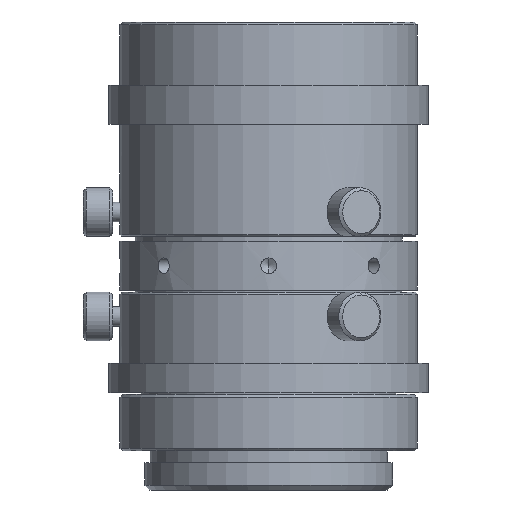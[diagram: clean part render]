
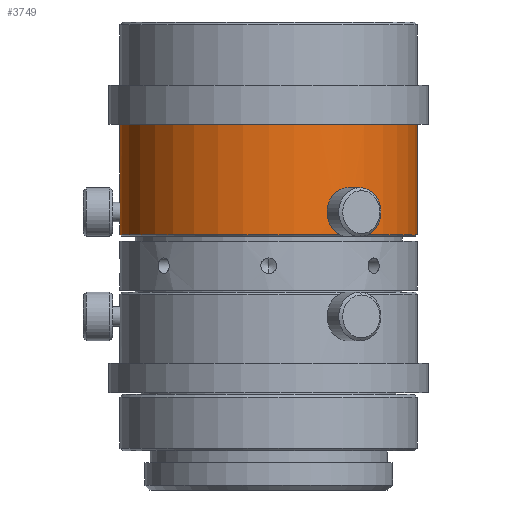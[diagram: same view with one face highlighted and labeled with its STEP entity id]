
A CAD part, left-side view. The second image highlights one B-rep face of the part: STEP entity #3749.
In plain terms, the highlighted cylindrical face has radius 15.25 mm (diameter 30.5 mm), a partial arc.
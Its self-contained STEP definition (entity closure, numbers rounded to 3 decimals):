
#30 = CIRCLE ( 'NONE', #145, 15.25 ) ;
#97 = CARTESIAN_POINT ( 'NONE',  ( -13.622, -6.856, -20.003 ) ) ;
#132 = DIRECTION ( 'NONE',  ( 0., 0., 1. ) ) ;
#139 = CARTESIAN_POINT ( 'NONE',  ( 0., 0., -3.092 ) ) ;
#145 = AXIS2_PLACEMENT_3D ( 'NONE', #4608, #2112, #5027 ) ;
#181 = ORIENTED_EDGE ( 'NONE', *, *, #3562, .F. ) ;
#204 = LINE ( 'NONE', #566, #2285 ) ;
#275 = CARTESIAN_POINT ( 'NONE',  ( 0., 15.25, -20.5 ) ) ;
#290 = CARTESIAN_POINT ( 'NONE',  ( -0.874, 15.225, -18.997 ) ) ;
#327 = CARTESIAN_POINT ( 'NONE',  ( 0., -15.25, -21.8 ) ) ;
#328 = CARTESIAN_POINT ( 'NONE',  ( -13.141, -7.739, -20.5 ) ) ;
#344 = CARTESIAN_POINT ( 'NONE',  ( -12.748, -8.369, -20.003 ) ) ;
#539 = CARTESIAN_POINT ( 'NONE',  ( -13.462, -7.168, -20.391 ) ) ;
#540 = CARTESIAN_POINT ( 'NONE',  ( 0., 15.25, -10.5 ) ) ;
#566 = CARTESIAN_POINT ( 'NONE',  ( 0., -15.25, -3.092 ) ) ;
#600 = FACE_BOUND ( 'NONE', #2810, .T. ) ;
#662 = CIRCLE ( 'NONE', #2860, 15.25 ) ;
#715 = CARTESIAN_POINT ( 'NONE',  ( -0.614, 15.238, -18.7 ) ) ;
#759 = B_SPLINE_CURVE_WITH_KNOTS ( 'NONE', 3,
 ( #927, #2584, #5073, #3841, #1342, #4253, #1758, #4674, #2179, #5091, #2605, #97, #3009, #539, #3444, #948 ),
 .UNSPECIFIED., .F., .F.,
 ( 4, 2, 2, 2, 2, 2, 2, 4 ),
 ( 0.003, 0.004, 0.004, 0.004, 0.005, 0.005, 0.005, 0.006 ),
 .UNSPECIFIED. ) ;
#762 = CARTESIAN_POINT ( 'NONE',  ( -12.678, -8.475, -19.631 ) ) ;
#884 = DIRECTION ( 'NONE',  ( 0., 0., 1. ) ) ;
#927 = CARTESIAN_POINT ( 'NONE',  ( -13.207, -7.625, -18.5 ) ) ;
#948 = CARTESIAN_POINT ( 'NONE',  ( -13.207, -7.625, -20.5 ) ) ;
#1106 = CARTESIAN_POINT ( 'NONE',  ( -0.262, 15.248, -20.474 ) ) ;
#1118 = CARTESIAN_POINT ( 'NONE',  ( -0.262, 15.248, -18.526 ) ) ;
#1148 = CARTESIAN_POINT ( 'NONE',  ( 0., -15.25, -10.5 ) ) ;
#1167 = CARTESIAN_POINT ( 'NONE',  ( -12.693, -8.453, -19.239 ) ) ;
#1223 = CARTESIAN_POINT ( 'NONE',  ( -13.207, -7.625, -18.5 ) ) ;
#1267 = VERTEX_POINT ( 'NONE', #540 ) ;
#1342 = CARTESIAN_POINT ( 'NONE',  ( -13.504, -7.087, -18.7 ) ) ;
#1387 = VERTEX_POINT ( 'NONE', #1835 ) ;
#1524 = CARTESIAN_POINT ( 'NONE',  ( -0.615, 15.238, -20.299 ) ) ;
#1545 = CARTESIAN_POINT ( 'NONE',  ( 0., 15.25, -18.5 ) ) ;
#1584 = CARTESIAN_POINT ( 'NONE',  ( -12.789, -8.308, -18.886 ) ) ;
#1672 = LINE ( 'NONE', #5356, #3765 ) ;
#1694 = FACE_OUTER_BOUND ( 'NONE', #3349, .T. ) ;
#1713 = CARTESIAN_POINT ( 'NONE',  ( 0., 15.25, -3.092 ) ) ;
#1758 = CARTESIAN_POINT ( 'NONE',  ( -13.622, -6.856, -18.995 ) ) ;
#1796 = DIRECTION ( 'NONE',  ( 0., -1., 0. ) ) ;
#1835 = CARTESIAN_POINT ( 'NONE',  ( 0., 15.25, -21.8 ) ) ;
#1844 = CARTESIAN_POINT ( 'NONE',  ( -13.207, -7.625, -20.5 ) ) ;
#1939 = CARTESIAN_POINT ( 'NONE',  ( -0.874, 15.225, -20.003 ) ) ;
#2001 = CARTESIAN_POINT ( 'NONE',  ( -12.948, -8.057, -18.626 ) ) ;
#2094 = ORIENTED_EDGE ( 'NONE', *, *, #2918, .F. ) ;
#2112 = DIRECTION ( 'NONE',  ( 0., 0., 1. ) ) ;
#2130 = VECTOR ( 'NONE', #4627, 1000. ) ;
#2179 = CARTESIAN_POINT ( 'NONE',  ( -13.678, -6.743, -19.367 ) ) ;
#2273 = ORIENTED_EDGE ( 'NONE', *, *, #2819, .F. ) ;
#2285 = VECTOR ( 'NONE', #132, 1000. ) ;
#2358 = CARTESIAN_POINT ( 'NONE',  ( -1., 15.217, -19.631 ) ) ;
#2412 = CARTESIAN_POINT ( 'NONE',  ( -12.948, -8.058, -20.374 ) ) ;
#2427 = B_SPLINE_CURVE_WITH_KNOTS ( 'NONE', 3,
 ( #275, #3610, #1106, #4017, #1524, #4437, #1939, #4844, #2358, #5279, #2776, #290, #3184, #715, #3625, #1118, #4034, #1545 ),
 .UNSPECIFIED., .F., .F.,
 ( 4, 2, 2, 2, 2, 2, 2, 2, 4 ),
 ( 0., 0., 0.001, 0.001, 0.002, 0.002, 0.002, 0.003, 0.003 ),
 .UNSPECIFIED. ) ;
#2429 = CARTESIAN_POINT ( 'NONE',  ( -13.142, -7.738, -18.5 ) ) ;
#2552 = CYLINDRICAL_SURFACE ( 'NONE', #4922, 15.25 ) ;
#2584 = CARTESIAN_POINT ( 'NONE',  ( -13.272, -7.512, -18.5 ) ) ;
#2605 = CARTESIAN_POINT ( 'NONE',  ( -13.667, -6.766, -19.761 ) ) ;
#2606 = EDGE_CURVE ( 'NONE', #4785, #4550, #759, .T. ) ;
#2703 = ORIENTED_EDGE ( 'NONE', *, *, #2927, .F. ) ;
#2776 = CARTESIAN_POINT ( 'NONE',  ( -0.974, 15.219, -19.239 ) ) ;
#2783 = ORIENTED_EDGE ( 'NONE', *, *, #3997, .T. ) ;
#2810 = EDGE_LOOP ( 'NONE', ( #181, #4191 ) ) ;
#2819 = EDGE_CURVE ( 'NONE', #4856, #1267, #1672, .T. ) ;
#2821 = CARTESIAN_POINT ( 'NONE',  ( -12.789, -8.307, -20.115 ) ) ;
#2860 = AXIS2_PLACEMENT_3D ( 'NONE', #3372, #884, #3806 ) ;
#2918 = EDGE_CURVE ( 'NONE', #1267, #3560, #30, .T. ) ;
#2927 = EDGE_CURVE ( 'NONE', #1387, #3168, #3223, .T. ) ;
#3009 = CARTESIAN_POINT ( 'NONE',  ( -13.589, -6.922, -20.114 ) ) ;
#3085 = EDGE_CURVE ( 'NONE', #3168, #4856, #2427, .T. ) ;
#3168 = VERTEX_POINT ( 'NONE', #4931 ) ;
#3184 = CARTESIAN_POINT ( 'NONE',  ( -0.801, 15.229, -18.886 ) ) ;
#3223 = LINE ( 'NONE', #1713, #2130 ) ;
#3235 = CARTESIAN_POINT ( 'NONE',  ( -12.693, -8.453, -19.762 ) ) ;
#3329 = EDGE_CURVE ( 'NONE', #4681, #3560, #204, .T. ) ;
#3348 = CARTESIAN_POINT ( 'NONE',  ( 0., 15.25, -18.5 ) ) ;
#3349 = EDGE_LOOP ( 'NONE', ( #2703, #2783, #4735, #2094, #2273, #5115 ) ) ;
#3372 = CARTESIAN_POINT ( 'NONE',  ( 0., 0., -21.8 ) ) ;
#3444 = CARTESIAN_POINT ( 'NONE',  ( -13.339, -7.396, -20.5 ) ) ;
#3560 = VERTEX_POINT ( 'NONE', #1148 ) ;
#3562 = EDGE_CURVE ( 'NONE', #4550, #4785, #4099, .T. ) ;
#3610 = CARTESIAN_POINT ( 'NONE',  ( -0.132, 15.25, -20.5 ) ) ;
#3625 = CARTESIAN_POINT ( 'NONE',  ( -0.504, 15.242, -18.626 ) ) ;
#3671 = CARTESIAN_POINT ( 'NONE',  ( -12.678, -8.475, -19.37 ) ) ;
#3749 = ADVANCED_FACE ( 'NONE', ( #1694, #600 ), #2552, .T. ) ;
#3765 = VECTOR ( 'NONE', #4510, 1000. ) ;
#3806 = DIRECTION ( 'NONE',  ( 0., -1., 0. ) ) ;
#3841 = CARTESIAN_POINT ( 'NONE',  ( -13.452, -7.186, -18.626 ) ) ;
#3997 = EDGE_CURVE ( 'NONE', #1387, #4681, #662, .T. ) ;
#4017 = CARTESIAN_POINT ( 'NONE',  ( -0.504, 15.242, -20.374 ) ) ;
#4034 = CARTESIAN_POINT ( 'NONE',  ( -0.131, 15.25, -18.5 ) ) ;
#4067 = CARTESIAN_POINT ( 'NONE',  ( -13.207, -7.625, -20.5 ) ) ;
#4086 = CARTESIAN_POINT ( 'NONE',  ( -12.748, -8.369, -18.997 ) ) ;
#4099 = B_SPLINE_CURVE_WITH_KNOTS ( 'NONE', 3,
 ( #4067, #328, #4898, #2412, #5328, #2821, #344, #3235, #762, #3671, #1167, #4086, #1584, #4498, #2001, #4912, #2429, #5345 ),
 .UNSPECIFIED., .F., .F.,
 ( 4, 2, 2, 2, 2, 2, 2, 2, 4 ),
 ( 0., 0., 0.001, 0.001, 0.002, 0.002, 0.002, 0.003, 0.003 ),
 .UNSPECIFIED. ) ;
#4191 = ORIENTED_EDGE ( 'NONE', *, *, #2606, .F. ) ;
#4253 = CARTESIAN_POINT ( 'NONE',  ( -13.588, -6.923, -18.885 ) ) ;
#4437 = CARTESIAN_POINT ( 'NONE',  ( -0.799, 15.229, -20.115 ) ) ;
#4498 = CARTESIAN_POINT ( 'NONE',  ( -12.889, -8.151, -18.7 ) ) ;
#4510 = DIRECTION ( 'NONE',  ( 0., 0., 1. ) ) ;
#4550 = VERTEX_POINT ( 'NONE', #1844 ) ;
#4608 = CARTESIAN_POINT ( 'NONE',  ( 0., 0., -10.5 ) ) ;
#4627 = DIRECTION ( 'NONE',  ( 0., 0., 1. ) ) ;
#4674 = CARTESIAN_POINT ( 'NONE',  ( -13.667, -6.766, -19.237 ) ) ;
#4681 = VERTEX_POINT ( 'NONE', #327 ) ;
#4711 = DIRECTION ( 'NONE',  ( 0., 0., 1. ) ) ;
#4735 = ORIENTED_EDGE ( 'NONE', *, *, #3329, .T. ) ;
#4785 = VERTEX_POINT ( 'NONE', #1223 ) ;
#4844 = CARTESIAN_POINT ( 'NONE',  ( -0.974, 15.219, -19.762 ) ) ;
#4856 = VERTEX_POINT ( 'NONE', #3348 ) ;
#4898 = CARTESIAN_POINT ( 'NONE',  ( -13.074, -7.851, -20.474 ) ) ;
#4912 = CARTESIAN_POINT ( 'NONE',  ( -13.075, -7.851, -18.526 ) ) ;
#4922 = AXIS2_PLACEMENT_3D ( 'NONE', #139, #4711, #1796 ) ;
#4931 = CARTESIAN_POINT ( 'NONE',  ( 0., 15.25, -20.5 ) ) ;
#5027 = DIRECTION ( 'NONE',  ( 0., -1., 0. ) ) ;
#5073 = CARTESIAN_POINT ( 'NONE',  ( -13.336, -7.397, -18.526 ) ) ;
#5091 = CARTESIAN_POINT ( 'NONE',  ( -13.679, -6.742, -19.631 ) ) ;
#5115 = ORIENTED_EDGE ( 'NONE', *, *, #3085, .F. ) ;
#5279 = CARTESIAN_POINT ( 'NONE',  ( -1., 15.217, -19.37 ) ) ;
#5328 = CARTESIAN_POINT ( 'NONE',  ( -12.889, -8.152, -20.299 ) ) ;
#5345 = CARTESIAN_POINT ( 'NONE',  ( -13.207, -7.625, -18.5 ) ) ;
#5356 = CARTESIAN_POINT ( 'NONE',  ( 0., 15.25, -3.092 ) ) ;
